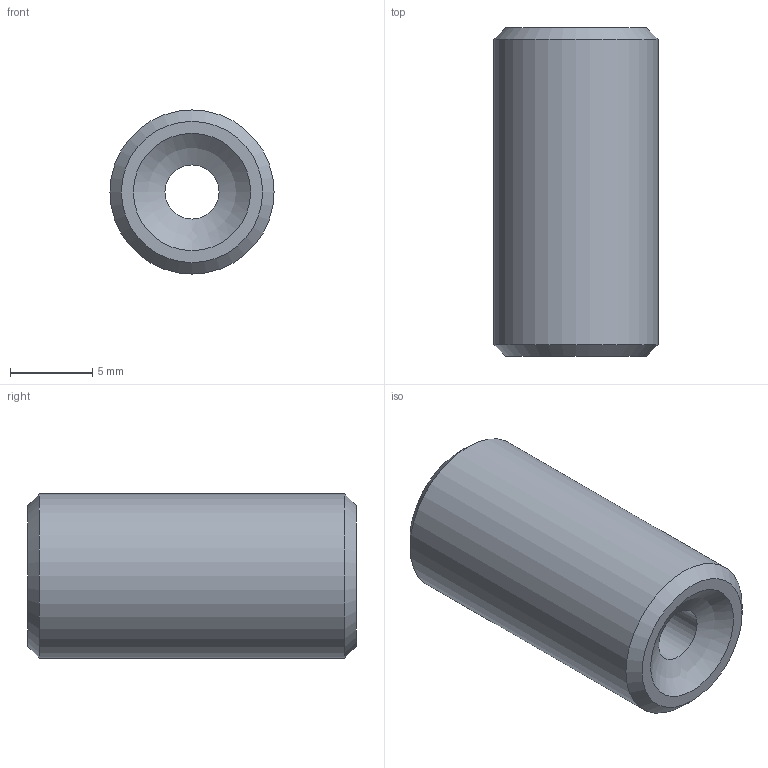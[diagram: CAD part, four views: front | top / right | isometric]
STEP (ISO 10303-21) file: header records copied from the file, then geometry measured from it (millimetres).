
FILE_DESCRIPTION(('CAx-IF Rec.Pracs.---Model Styling and Organization---1.5---2016-08-15','CAx-IF Rec.Pracs.---Geometric and Assembly Validation Properties---4.4---2016-08-17','CAx-IF Rec.Pracs.---User Defined Attributes---1.5---2016-08-15','CAx-IF Rec.Pracs.---External References---2.1---2005-01-19'),'2;1');
FILE_NAME('EZ-0249-M10x1-R05-20-Andruckschraube-Bestell-Nr.-0003323.stp','2023-03-13T15:20:11',('Unspecified'),('Unspecified'),'CAD Exchanger 3.17.0 (cadexchanger.com)','Unspecified','');
FILE_SCHEMA(('AP242_MANAGED_MODEL_BASED_3D_ENGINEERING_MIM_LF { 1 0 10303 442 1 1 4 }'));
Length unit declared in the file: millimetre
Products named in the file (1): EZ-0249-M10x1-R05-20-Andruckschraube-Bestell-Nr.-0003323
Bounding box: 10 x 20 x 10 mm (x, y, z)
Volume: 1280.4 mm3; surface area: 988.2 mm2
Topology: 1 solids, 1 shells, 16 faces, 35 edges, 23 vertices
Faces by surface type: plane 10, cylinder 3, cone 2, sphere 1
Full cylindrical faces by diameter (mm): 3.3 x1, 4 x1, 10 x1
Entity records: 616 total; most frequent: CARTESIAN_POINT 80, DIRECTION 74, ORIENTED_EDGE 70, EDGE_CURVE 35, PROPERTY_DEFINITION 31, REPRESENTATION 31, PROPERTY_DEFINITION_REPRESENTATION 31, AXIS2_PLACEMENT_3D 28
